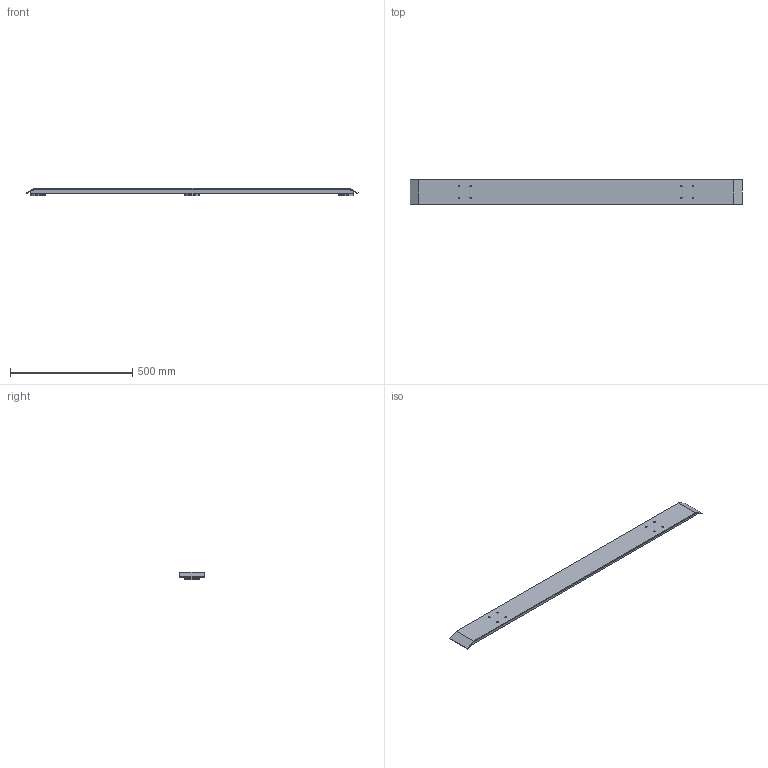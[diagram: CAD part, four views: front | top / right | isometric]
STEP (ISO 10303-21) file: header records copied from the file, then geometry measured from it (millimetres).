
FILE_DESCRIPTION( ( '' ), '1' );
FILE_NAME( 'C:/Users/dhek/Desktop/New folder/C_6/Legadrive/9244967.stp', '2018-02-20T11:48:59', ( '' ), ( '' ), ' ', ' ', ' ' );
FILE_SCHEMA( ( 'CONFIG_CONTROL_DESIGN' ) );
Length unit declared in the file: millimetre
Products named in the file (1): 1
Bounding box: 1360.36 x 100 x 32.5 mm (x, y, z)
Volume: 2602928.7 mm3; surface area: 360899.2 mm2
Topology: 1 solids, 1 shells, 50 faces, 126 edges, 84 vertices
Faces by surface type: cylinder 28, plane 22
Entity records: 1602 total; most frequent: DIRECTION 284, CARTESIAN_POINT 261, ORIENTED_EDGE 252, EDGE_CURVE 126, AXIS2_PLACEMENT_3D 107, VERTEX_POINT 84, EDGE_LOOP 72, LINE 70
